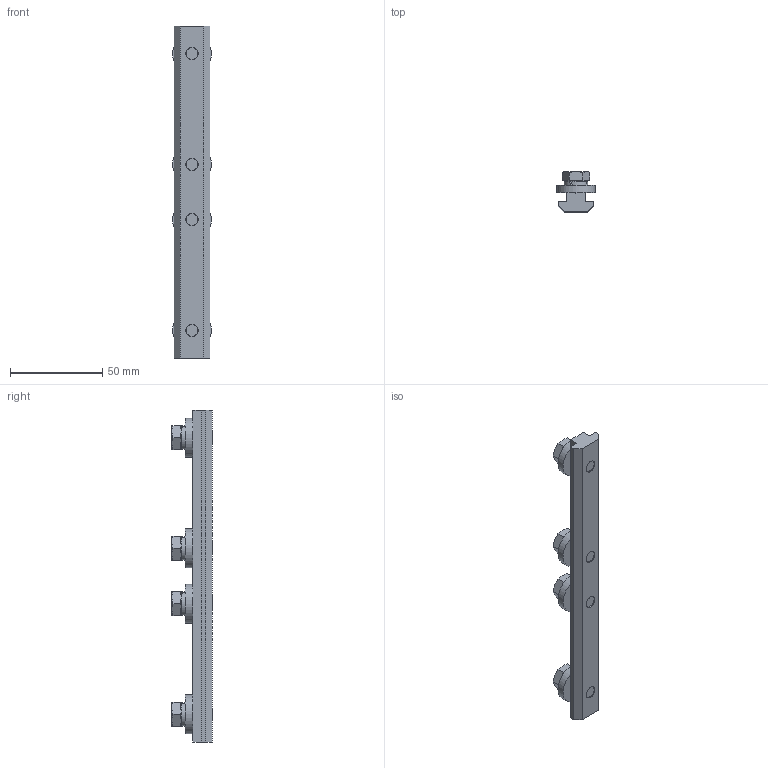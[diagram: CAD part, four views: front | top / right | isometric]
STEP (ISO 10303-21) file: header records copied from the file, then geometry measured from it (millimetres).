
FILE_DESCRIPTION(/* description */ ('www.motedis.com/part/S10BCS180','CAx-IF Rec.Pracs.---Representation and Presentation of Product Manufacturing Information (PMI)---4.0---2014-10-13'),/* implementation_level */ '2;1');
FILE_NAME(/* name */ 'Motedis_S10BCS180.stp',/* time_stamp */ '2026-09-25T11:11:46+02:00',/* author */ ('Motedis'),/* organization */ ('Motedis GmbH'),/* preprocessor_version */ 'ST-DEVELOPER v20.1',/* originating_system */ 'Autodesk Inventor 2026',/* authorisation */ 'Motedis GmbH');
FILE_SCHEMA (('AP242_MANAGED_MODEL_BASED_3D_ENGINEERING_MIM_LF { 1 0 10303 442 2 1 4 }'));
Length unit declared in the file: millimetre
Products named in the file (6): Motedis_S10BCS180; Motedis_S10BCS180_1; Fasteners_S10BCS180; DIN 933 - M8  x 16; DIN 7980 - 8; DIN 7349 - 8.4
Assembly tree (8 placements, depth 3):
  Motedis_S10BCS180
    Motedis_S10BCS180_1
    Fasteners_S10BCS180  x4
      DIN 933 - M8  x 16
      DIN 7980 - 8
      DIN 7349 - 8.4
Bounding box: 21 x 21.8 x 180 mm (x, y, z)
Volume: 36187.4 mm3; surface area: 19575.6 mm2
Topology: 13 solids, 13 shells, 159 faces, 355 edges, 226 vertices
Faces by surface type: plane 87, cylinder 40, cone 32
Full cylindrical faces by diameter (mm): 6.647 x4, 7.323 x4, 8 x4, 8.4 x4, 11.4 x4, 21 x4
Entity records: 2602 total; most frequent: CARTESIAN_POINT 484, DIRECTION 428, ORIENTED_EDGE 308, AXIS2_PLACEMENT_3D 174, EDGE_CURVE 154, VERTEX_POINT 100, LINE 80, VECTOR 80
